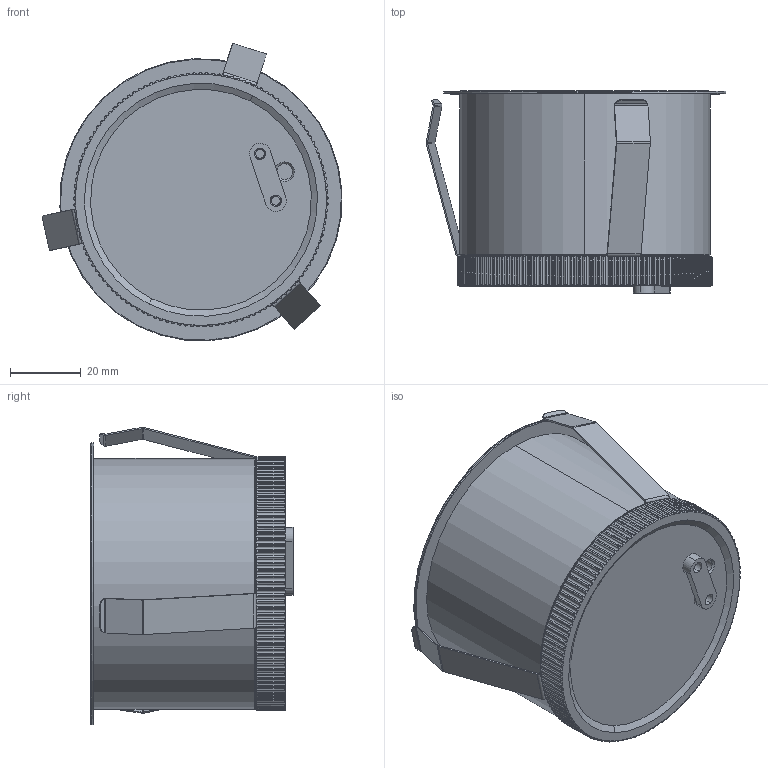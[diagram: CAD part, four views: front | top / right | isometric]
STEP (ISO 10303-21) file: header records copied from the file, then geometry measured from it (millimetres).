
FILE_DESCRIPTION (( 'STEP AP214' ), '1' );
FILE_NAME ('102015-75P.STEP', '2026-08-28T08:08:22', ( '' ), ( '' ), 'SwSTEP 2.0', 'SolidWorks 2023', '' );
FILE_SCHEMA (( 'AUTOMOTIVE_DESIGN' ));
Length unit declared in the file: millimetre
Products named in the file (1): 102015-75P
Bounding box: 84.95 x 57.2 x 84.28 mm (x, y, z)
Volume: 131517.5 mm3; surface area: 64809.4 mm2
Topology: 8 solids, 8 shells, 1344 faces, 3644 edges, 2332 vertices
Faces by surface type: cylinder 757, cone 313, plane 158, bspline 96, torus 20
Entity records: 58506 total; most frequent: CARTESIAN_POINT 28133, ORIENTED_EDGE 7284, DIRECTION 5101, EDGE_CURVE 3642, VERTEX_POINT 2332, AXIS2_PLACEMENT_3D 2037, B_SPLINE_CURVE_WITH_KNOTS 1638, EDGE_LOOP 1388
